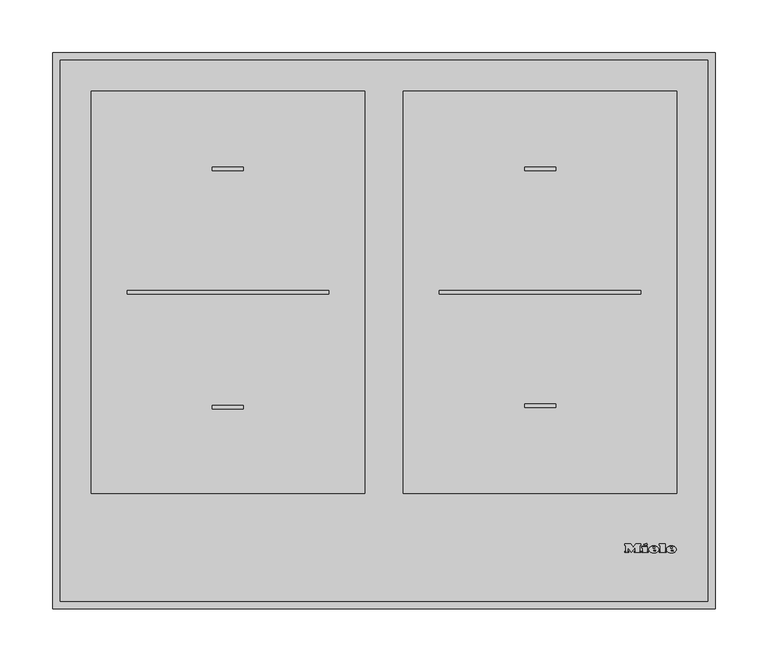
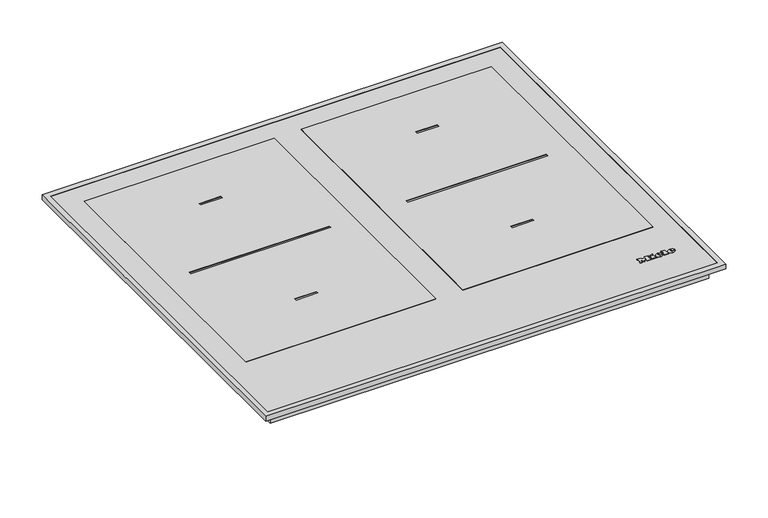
"""IFC4 building model written with IfcOpenShell, lengths in millimetres: proxy geometry, 11022950_D_KM7564FR : 26756400_D_11022950_KM7564FR."""

from ifc_helpers import new_model, si_unit, point, frame, frame_2d, origin, place, context, project, spatial, polyline, circle_curve, ellipse_curve, trimmed, segment, composite_curve, outline, extrude, faceted_brep, source, transform, mapped, element, save
from ifc_brep_helpers import plane_surface, cylinder_surface, revolved_surface, extruded_surface, advanced_brep


def specialty_equipment_dd4745b3(model_context):
    return source(origin(), model_context, "Body", "SolidModel", [
        advanced_brep(
        [(271.06, 55.1948833, 6.4802537), (271.06, 56.0028828, 6.4811551), (276.412, 56.0028828, 6.4811551), (267.1, 56.0028828, 6.4811551), (269.3, 53.2988845, 6.4781386), (276.276, 55.1948833, 6.4802537), (273.86, 55.1948833, 6.4802537), (271.956, 54.2988838, 6.4792542), (271.06, 57.0268821, 6.4822974), (271.06, 57.8988816, 6.4832701), (272.428, 57.8988816, 6.4832701), (272.428, 57.0268821, 6.4822974), (271.06, 55.1959988, 5.4802543), (271.956, 54.2999994, 5.4792548), (273.86, 55.1959988, 5.4802543), (276.276, 55.1959988, 5.4802543), (269.3, 53.3, 5.4781393), (267.1, 56.0039983, 5.4811557), (276.412, 56.0039983, 5.4811557), (271.06, 56.0039983, 5.4811557), (271.06, 57.0279977, 5.482298), (272.428, 57.0279977, 5.482298), (272.428, 57.8999971, 5.4832707), (271.06, 57.8999971, 5.4832707)],
        [
            (0, 1),
            (1, 2),
            (2, 3, ellipse_curve(frame((271.756, 56.0028828, 6.4811551), z_axis=(0.0, -0.0011155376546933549, 0.9999993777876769), x_axis=(-1.0, 0.0, 0.0)), 4.656, 3.848)),
            (3, 4, circle_curve(frame((270.1960436, 56.2748826, 6.4814585), z_axis=(0.0, -0.0011155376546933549, 0.9999993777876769), x_axis=(0.0, -0.9999993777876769, -0.0011155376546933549)), 3.1079688)),
            (4, 5, circle_curve(frame((271.6627936, 58.3868813, 6.4838145), z_axis=(0.0, -0.0011155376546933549, 0.9999993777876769), x_axis=(0.0, -0.9999993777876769, -0.0011155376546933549)), 5.6098607)),
            (5, 6),
            (6, 7, circle_curve(frame((272.3470588, 55.9388828, 6.4810837), z_axis=(0.0, 0.0011155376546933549, -0.9999993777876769), x_axis=(0.0, -0.9999993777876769, -0.0011155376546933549)), 1.6859795)),
            (7, 0, circle_curve(frame((271.956, 55.1948833, 6.4802537), z_axis=(0.0, 0.0011155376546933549, -0.9999993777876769), x_axis=(0.0, -0.9999993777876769, -0.0011155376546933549)), 0.896)),
            (8, 9),
            (9, 10, circle_curve(frame((271.744, 57.8988816, 6.4832701), z_axis=(0.0, 0.0011155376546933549, -0.9999993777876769), x_axis=(0.0, -0.9999993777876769, -0.0011155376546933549)), 0.684)),
            (10, 11),
            (11, 8),
            (12, 13, circle_curve(frame((271.956, 55.1959988, 5.4802543), z_axis=(0.0, -0.0011155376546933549, 0.9999993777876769), x_axis=(0.0, -0.9999993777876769, -0.0011155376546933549)), 0.896)),
            (13, 14, circle_curve(frame((272.3470588, 55.9399984, 5.4810843), z_axis=(0.0, -0.0011155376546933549, 0.9999993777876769), x_axis=(0.0, -0.9999993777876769, -0.0011155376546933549)), 1.6859795)),
            (14, 15),
            (15, 16, circle_curve(frame((271.6627936, 58.3879968, 5.4838151), z_axis=(0.0, 0.0011155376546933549, -0.9999993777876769), x_axis=(0.0, -0.9999993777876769, -0.0011155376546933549)), 5.6098607)),
            (16, 17, circle_curve(frame((270.1960436, 56.2759981, 5.4814591), z_axis=(0.0, 0.0011155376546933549, -0.9999993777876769), x_axis=(0.0, -0.9999993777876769, -0.0011155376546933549)), 3.1079688)),
            (17, 18, ellipse_curve(frame((271.756, 56.0039983, 5.4811557), z_axis=(0.0, 0.0011155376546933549, -0.9999993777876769), x_axis=(-1.0, 0.0, 0.0)), 4.656, 3.848)),
            (18, 19),
            (19, 12),
            (20, 21),
            (21, 22),
            (22, 23, circle_curve(frame((271.744, 57.8999971, 5.4832707), z_axis=(0.0, -0.0011155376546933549, 0.9999993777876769), x_axis=(0.0, -0.9999993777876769, -0.0011155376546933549)), 0.684)),
            (23, 20),
            (0, 12),
            (19, 1),
            (18, 2),
            (5, 15),
            (14, 6),
            (17, 3),
            (13, 7),
            (16, 4),
            (8, 20),
            (23, 9),
            (22, 10),
            (21, 11),
        ],
        [
            plane_surface(frame((271.06, 56.0028828, 6.4811551), z_axis=(0.0, -0.0011155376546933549, 0.9999993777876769), x_axis=(0.0, 0.9999993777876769, 0.0011155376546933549))),
            plane_surface(frame((271.06, 56.0039983, 5.4811557), z_axis=(0.0, 0.0011155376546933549, -0.9999993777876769), x_axis=(0.0, -0.9999993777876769, -0.0011155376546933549))),
            plane_surface(frame((271.06, 55.1948833, 6.4802537), z_axis=(1.0000000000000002, 0.0, 0.0), x_axis=(0.0, 0.001115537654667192, -0.999999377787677))),
            plane_surface(frame((271.06, 56.0028828, 6.4811551), z_axis=(0.0, -0.999999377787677, -0.001115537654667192), x_axis=(0.0, 0.001115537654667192, -0.999999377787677))),
            plane_surface(frame((276.276, 55.1948833, 6.4802537), z_axis=(0.0, 0.999999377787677, 0.001115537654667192), x_axis=(0.0, 0.001115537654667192, -0.999999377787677))),
            extruded_surface(trimmed(ellipse_curve(frame((271.756, 56.0051139, 4.4811563), z_axis=(0.0, -0.0011155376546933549, 0.9999993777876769), x_axis=(-1.0, 0.0, 0.0)), 4.656, 3.848), [point((276.412, 56.0051139, 4.4811563))], [point((267.1, 56.0051139, 4.4811563))], True, "CARTESIAN"), (0.0, -0.001115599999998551, 0.9999994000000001), 1.00000002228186),
            revolved_surface(polyline([(272.3470588, 54.25401994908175, 5.479203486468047), (272.3470588, 54.25290441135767, 6.4792029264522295)]), (272.3470588, 55.9399984, 5.4810843), (0.0, 0.0011155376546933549, -0.9999993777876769)),
            revolved_surface(polyline([(271.956, 54.29999935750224, 5.479254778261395), (271.956, 54.29888381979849, 6.479254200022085)]), (271.956, 55.1959988, 5.4802543), (0.0, 0.0011155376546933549, -0.9999993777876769)),
            cylinder_surface(frame((270.1960436, 56.2759981, 5.4814591), z_axis=(0.0, -0.0011155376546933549, 0.9999993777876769), x_axis=(0.0, -0.9999993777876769, -0.0011155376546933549)), 3.1079688),
            cylinder_surface(frame((271.6627936, 58.3879968, 5.4838151), z_axis=(0.0, -0.0011155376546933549, 0.9999993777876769), x_axis=(0.0, -0.9999993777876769, -0.0011155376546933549)), 5.6098607),
            plane_surface(frame((271.06, 57.0268821, 6.4822974), z_axis=(1.0000000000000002, 0.0, 0.0), x_axis=(0.0, 0.001115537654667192, -0.999999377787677))),
            revolved_surface(polyline([(271.744, 57.21599752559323, 5.48250767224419), (271.744, 57.214881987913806, 6.482507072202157)]), (271.744, 57.8999971, 5.4832707), (0.0, 0.0011155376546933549, -0.9999993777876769)),
            plane_surface(frame((272.428, 57.8988816, 6.4832701), z_axis=(-1.0000000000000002, 0.0, 0.0), x_axis=(0.0, 0.001115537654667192, -0.999999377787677))),
            plane_surface(frame((272.428, 57.0268821, 6.4822974), z_axis=(0.0, 0.999999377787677, 0.001115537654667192), x_axis=(0.0, 0.001115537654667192, -0.999999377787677))),
        ],
        [
            (0, [[1, 2, 3, 4, 5, 6, 7, 8], [9, 10, 11, 12]]),
            (1, [[13, 14, 15, 16, 17, 18, 19, 20], [21, 22, 23, 24]]),
            (2, [[-1, 25, -20, 26]]),
            (3, [[-2, -26, -19, 27]]),
            (4, [[-6, 28, -15, 29]]),
            (5, [[-3, -27, -18, 30]]),
            (6, [[-7, -29, -14, 31]]),
            (7, [[-8, -31, -13, -25]]),
            (8, [[-4, -30, -17, 32]]),
            (9, [[-5, -32, -16, -28]]),
            (10, [[-9, 33, -24, 34]]),
            (11, [[-10, -34, -23, 35]]),
            (12, [[-11, -35, -22, 36]]),
            (13, [[-12, -36, -21, -33]]),
        ],
    ),
        advanced_brep(
        [(254.364, 55.1948833, 6.4802537), (254.364, 56.0028828, 6.4811551), (259.716, 56.0028828, 6.4811551), (250.404, 56.0028828, 6.4811551), (252.604, 53.2988845, 6.4781386), (259.58, 55.1948833, 6.4802537), (257.164, 55.1948833, 6.4802537), (255.26, 54.2988838, 6.4792542), (254.364, 57.0268821, 6.4822974), (254.364, 57.8988816, 6.4832701), (255.732, 57.8988816, 6.4832701), (255.732, 57.0268821, 6.4822974), (254.364, 55.1959988, 5.4802543), (255.26, 54.2999994, 5.4792548), (257.164, 55.1959988, 5.4802543), (259.58, 55.1959988, 5.4802543), (252.604, 53.3, 5.4781393), (250.404, 56.0039983, 5.4811557), (259.716, 56.0039983, 5.4811557), (254.364, 56.0039983, 5.4811557), (254.364, 57.0279977, 5.482298), (255.732, 57.0279977, 5.482298), (255.732, 57.8999971, 5.4832707), (254.364, 57.8999971, 5.4832707)],
        [
            (0, 1),
            (1, 2),
            (2, 3, ellipse_curve(frame((255.06, 56.0028828, 6.4811551), z_axis=(0.0, -0.0011155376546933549, 0.9999993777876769), x_axis=(-1.0, 0.0, 0.0)), 4.656, 3.848)),
            (3, 4, circle_curve(frame((253.5000436, 56.2748826, 6.4814585), z_axis=(0.0, -0.0011155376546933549, 0.9999993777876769), x_axis=(0.0, -0.9999993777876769, -0.0011155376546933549)), 3.1079688)),
            (4, 5, circle_curve(frame((254.9667936, 58.3868813, 6.4838145), z_axis=(0.0, -0.0011155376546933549, 0.9999993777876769), x_axis=(0.0, -0.9999993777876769, -0.0011155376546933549)), 5.6098607)),
            (5, 6),
            (6, 7, circle_curve(frame((255.6510588, 55.9388828, 6.4810837), z_axis=(0.0, 0.0011155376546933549, -0.9999993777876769), x_axis=(0.0, -0.9999993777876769, -0.0011155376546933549)), 1.6859795)),
            (7, 0, circle_curve(frame((255.26, 55.1948833, 6.4802537), z_axis=(0.0, 0.0011155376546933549, -0.9999993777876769), x_axis=(0.0, -0.9999993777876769, -0.0011155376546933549)), 0.896)),
            (8, 9),
            (9, 10, circle_curve(frame((255.048, 57.8988816, 6.4832701), z_axis=(0.0, 0.0011155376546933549, -0.9999993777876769), x_axis=(0.0, -0.9999993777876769, -0.0011155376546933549)), 0.684)),
            (10, 11),
            (11, 8),
            (12, 13, circle_curve(frame((255.26, 55.1959988, 5.4802543), z_axis=(0.0, -0.0011155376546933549, 0.9999993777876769), x_axis=(0.0, -0.9999993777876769, -0.0011155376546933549)), 0.896)),
            (13, 14, circle_curve(frame((255.6510588, 55.9399984, 5.4810843), z_axis=(0.0, -0.0011155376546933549, 0.9999993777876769), x_axis=(0.0, -0.9999993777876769, -0.0011155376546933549)), 1.6859795)),
            (14, 15),
            (15, 16, circle_curve(frame((254.9667936, 58.3879968, 5.4838151), z_axis=(0.0, 0.0011155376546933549, -0.9999993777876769), x_axis=(0.0, -0.9999993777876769, -0.0011155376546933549)), 5.6098607)),
            (16, 17, circle_curve(frame((253.5000436, 56.2759981, 5.4814591), z_axis=(0.0, 0.0011155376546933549, -0.9999993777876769), x_axis=(0.0, -0.9999993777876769, -0.0011155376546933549)), 3.1079688)),
            (17, 18, ellipse_curve(frame((255.06, 56.0039983, 5.4811557), z_axis=(0.0, 0.0011155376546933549, -0.9999993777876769), x_axis=(-1.0, 0.0, 0.0)), 4.656, 3.848)),
            (18, 19),
            (19, 12),
            (20, 21),
            (21, 22),
            (22, 23, circle_curve(frame((255.048, 57.8999971, 5.4832707), z_axis=(0.0, -0.0011155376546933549, 0.9999993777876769), x_axis=(0.0, -0.9999993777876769, -0.0011155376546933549)), 0.684)),
            (23, 20),
            (0, 12),
            (19, 1),
            (18, 2),
            (5, 15),
            (14, 6),
            (17, 3),
            (13, 7),
            (16, 4),
            (8, 20),
            (23, 9),
            (22, 10),
            (21, 11),
        ],
        [
            plane_surface(frame((254.364, 56.0028828, 6.4811551), z_axis=(0.0, -0.0011155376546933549, 0.9999993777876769), x_axis=(0.0, 0.9999993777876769, 0.0011155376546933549))),
            plane_surface(frame((254.364, 56.0039983, 5.4811557), z_axis=(0.0, 0.0011155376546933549, -0.9999993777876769), x_axis=(0.0, -0.9999993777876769, -0.0011155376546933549))),
            plane_surface(frame((254.364, 55.1948833, 6.4802537), z_axis=(1.0000000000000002, 0.0, 0.0), x_axis=(0.0, 0.001115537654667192, -0.999999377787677))),
            plane_surface(frame((254.364, 56.0028828, 6.4811551), z_axis=(0.0, -0.999999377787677, -0.001115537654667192), x_axis=(0.0, 0.001115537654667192, -0.999999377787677))),
            plane_surface(frame((259.58, 55.1948833, 6.4802537), z_axis=(0.0, 0.999999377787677, 0.001115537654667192), x_axis=(0.0, 0.001115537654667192, -0.999999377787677))),
            extruded_surface(trimmed(ellipse_curve(frame((255.06, 56.0051139, 4.4811563), z_axis=(0.0, -0.0011155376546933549, 0.9999993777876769), x_axis=(-1.0, 0.0, 0.0)), 4.656, 3.848), [point((259.716, 56.0051139, 4.4811563))], [point((250.404, 56.0051139, 4.4811563))], True, "CARTESIAN"), (0.0, -0.001115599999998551, 0.9999994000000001), 1.00000002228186),
            revolved_surface(polyline([(255.6510588, 54.25401994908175, 5.479203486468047), (255.6510588, 54.25290441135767, 6.4792029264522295)]), (255.6510588, 55.9399984, 5.4810843), (0.0, 0.0011155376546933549, -0.9999993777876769)),
            revolved_surface(polyline([(255.26, 54.29999935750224, 5.479254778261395), (255.26, 54.29888381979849, 6.479254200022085)]), (255.26, 55.1959988, 5.4802543), (0.0, 0.0011155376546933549, -0.9999993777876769)),
            cylinder_surface(frame((253.5000436, 56.2759981, 5.4814591), z_axis=(0.0, -0.0011155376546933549, 0.9999993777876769), x_axis=(0.0, -0.9999993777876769, -0.0011155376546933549)), 3.1079688),
            cylinder_surface(frame((254.9667936, 58.3879968, 5.4838151), z_axis=(0.0, -0.0011155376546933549, 0.9999993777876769), x_axis=(0.0, -0.9999993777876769, -0.0011155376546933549)), 5.6098607),
            plane_surface(frame((254.364, 57.0268821, 6.4822974), z_axis=(1.0000000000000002, 0.0, 0.0), x_axis=(0.0, 0.001115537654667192, -0.999999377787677))),
            revolved_surface(polyline([(255.048, 57.21599752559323, 5.48250767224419), (255.048, 57.214881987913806, 6.482507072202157)]), (255.048, 57.8999971, 5.4832707), (0.0, 0.0011155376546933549, -0.9999993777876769)),
            plane_surface(frame((255.732, 57.8988816, 6.4832701), z_axis=(-1.0000000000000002, 0.0, 0.0), x_axis=(0.0, 0.001115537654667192, -0.999999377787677))),
            plane_surface(frame((255.732, 57.0268821, 6.4822974), z_axis=(0.0, 0.999999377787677, 0.001115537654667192), x_axis=(0.0, 0.001115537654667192, -0.999999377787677))),
        ],
        [
            (0, [[1, 2, 3, 4, 5, 6, 7, 8], [9, 10, 11, 12]]),
            (1, [[13, 14, 15, 16, 17, 18, 19, 20], [21, 22, 23, 24]]),
            (2, [[-1, 25, -20, 26]]),
            (3, [[-2, -26, -19, 27]]),
            (4, [[-6, 28, -15, 29]]),
            (5, [[-3, -27, -18, 30]]),
            (6, [[-7, -29, -14, 31]]),
            (7, [[-8, -31, -13, -25]]),
            (8, [[-4, -30, -17, 32]]),
            (9, [[-5, -32, -16, -28]]),
            (10, [[-9, 33, -24, 34]]),
            (11, [[-10, -34, -23, 35]]),
            (12, [[-11, -35, -22, 36]]),
            (13, [[-12, -36, -21, -33]]),
        ],
    ),
        extrude(outline(polyline([(0.0, 0.0), (-0.0109086, -2.9993294), (-1.4390415, -2.9920868), (-1.4315307, 0.0), (0.0, 0.0)])), frame((245.62, 60.8279953, 5.486537), z_axis=(0.0, -0.001115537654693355, 0.999999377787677), x_axis=(-0.4247202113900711, 0.9053240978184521, 0.0010099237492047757)), (0.0, 0.0, 1.0), 1.0),
        extrude(outline(polyline([(-0.4933908, 2.4141097), (-2.7800844, -2.4601583), (-7.0459741, -0.4588767), (-7.4401145, -1.299018), (-8.6568709, -0.728194), (-5.9760369, 4.9862153), (-4.7592805, 4.4153913), (-5.1636142, 3.5535222), (-2.1941493, 2.1604399), (-1.7898157, 3.022309), (-0.4933908, 2.4141097)])), frame((245.62, 60.8279953, 5.486537), z_axis=(0.0, -0.001115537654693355, 0.999999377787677), x_axis=(-0.4247202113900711, 0.9053240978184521, 0.0010099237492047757)), (0.0, 0.0, 1.0), 1.0),
        extrude(outline(polyline([(0.0, 0.0), (0.0, -1.304), (-5.504, -1.304), (-5.504, 5.3519999), (-6.488, 5.3519999), (-6.488, 6.696), (0.0, 6.696), (0.0, 5.3519999), (-0.96, 5.3519999), (-0.96, 0.0), (0.0, 0.0)])), frame((260.164, 59.9959958, 5.4856089), z_axis=(0.0, -0.0011155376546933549, 0.9999993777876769), x_axis=(-1.0, 0.0, 0.0)), (0.0, 0.0, 1.0), 1.0),
        extrude(outline(polyline([(0.0, 0.0), (0.0, -1.304), (-5.576, -1.304), (-7.92, 1.696), (-10.256, -1.304), (-15.128, -1.304), (-15.128, 0.0), (-14.112, 0.0), (-14.112, 5.3519999), (-15.128, 5.3519999), (-15.128, 6.696), (-8.744, 6.696), (-8.744, 5.3519999), (-9.728, 5.3519999), (-9.728, 1.8807777), (-6.136, 6.696), (-2.56, 1.9488752), (-2.56, 5.3519999), (-3.52, 5.3519999), (-3.52, 6.696), (0.0, 6.696), (0.0, 5.3519999), (-0.968, 5.3519999), (-0.968, 0.0), (0.0, 0.0)])), frame((227.7, 59.9959958, 5.4856089), z_axis=(0.0, -0.0011155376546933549, 0.9999993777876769), x_axis=(-1.0, 0.0, 0.0)), (0.0, 0.0, 1.0), 1.0),
        extrude(outline(polyline([(310.0, 520.0), (310.0, 1.0), (-310.0, 1.0), (-310.0, 520.0), (310.0, 520.0)])), frame((0.0, 0.0, 2.0), z_axis=(0.0, 0.0, 1.0), x_axis=(1.0, 0.0, 0.0)), (0.0, 0.0, 1.0), 4.0),
        extrude(outline(polyline([(298.5, 511.5), (298.5, 14.5), (-298.5, 14.5), (-298.5, 511.5), (298.5, 511.5)])), frame((0.0, 0.0, -16.8), z_axis=(0.0, 0.0, 1.0), x_axis=(1.0, 0.0, 0.0)), (0.0, 0.0, 1.0), 18.8),
        extrude(outline(polyline([(-202.8, 321.7), (-224.2, 321.7), (-224.2, 405.1), (-202.8, 405.1), (-202.8, 455.3), (203.2, 455.3), (203.2, 84.3), (-202.8, 84.3), (-202.8, 321.7)])), frame((0.0, 0.0, -46.5), z_axis=(0.0, 0.0, 1.0), x_axis=(1.0, 0.0, 0.0)), (0.0, 0.0, 1.0), 29.7),
        faceted_brep([(306.0, 519.0, 7.0), (306.0, 519.0, 6.0), (306.0, 7.0, 6.0), (306.0, 7.0, 7.0), (313.0, 526.0, 0.0), (313.0, 526.0, 7.0), (313.0, 0.0, 7.0), (313.0, 0.0, 0.0), (312.0, 525.0, 6.0), (312.0, 525.0, 0.0), (312.0, 1.0, 0.0), (312.0, 1.0, 6.0), (-306.0, 7.0, 6.0), (-306.0, 7.0, 7.0), (-313.0, 0.0, 7.0), (-313.0, 0.0, 0.0), (-312.0, 1.0, 0.0), (-312.0, 1.0, 6.0), (-306.0, 519.0, 6.0), (-306.0, 519.0, 7.0), (-313.0, 526.0, 7.0), (-313.0, 526.0, 0.0), (-312.0, 525.0, 0.0), (-312.0, 525.0, 6.0)], [[[0, 1, 2, 3]], [[4, 5, 6, 7]], [[8, 9, 10, 11]], [[3, 2, 12, 13]], [[7, 6, 14, 15]], [[11, 10, 16, 17]], [[13, 12, 18, 19]], [[15, 14, 20, 21]], [[17, 16, 22, 23]], [[19, 18, 1, 0]], [[5, 20, 14, 6], [3, 13, 19, 0]], [[21, 20, 5, 4]], [[7, 15, 21, 4], [9, 22, 16, 10]], [[23, 22, 9, 8]], [[11, 17, 23, 8], [1, 18, 12, 2]]]),
        extrude(outline(polyline([(141.2772603, 418.5), (133.9, 418.5), (133.9, 419.7557039), (140.0215564, 419.7557039), (140.0215564, 423.0519266), (134.370889, 423.0519266), (134.370889, 424.3076304), (140.0215564, 424.3076304), (140.0215564, 427.2899271), (134.056963, 427.2899271), (134.056963, 428.545631), (141.2772603, 428.545631), (141.2772603, 418.5)])), frame((0.0, 0.0, -77.5), z_axis=(0.0, 0.0, 1.0), x_axis=(1.0, 0.0, 0.0)), (0.0, 0.0, 1.0), 1.0),
        extrude(outline(polyline([(132.0164442, 418.5), (125.7379248, 418.5), (125.7379248, 419.7557039), (130.7607403, 419.7557039), (130.7607403, 428.545631), (132.0164442, 428.545631), (132.0164442, 418.5)])), frame((0.0, 0.0, -77.5), z_axis=(0.0, 0.0, 1.0), x_axis=(1.0, 0.0, 0.0)), (0.0, 0.0, 1.0), 1.0),
        extrude(outline(composite_curve([segment(trimmed(circle_curve(frame_2d((133.9, 423.5)), 7.5), [point((133.9, 431.0))], [point((133.9, 416.0))], False, "CARTESIAN"), True, "CONTINUOUS"), segment(trimmed(circle_curve(frame_2d((133.9, 423.5)), 7.5), [point((133.9, 416.0))], [point((133.9, 431.0))], False, "CARTESIAN"), True, "CONTINUOUS")], self_intersect=False)), frame((0.0, 0.0, -76.5), z_axis=(0.0, 0.0, 1.0), x_axis=(1.0, 0.0, 0.0)), (0.0, 0.0, 1.0), 30.0),
        extrude(outline(polyline([(276.75, 489.75), (276.75, 109.25), (18.25, 109.25), (18.25, 489.75), (276.75, 489.75)]), holes=[polyline([(52.2, 301.1), (52.2, 297.9), (242.8, 297.9), (242.8, 301.1), (52.2, 301.1)]), polyline([(162.15, 417.85), (132.85, 417.85), (132.85, 414.65), (162.15, 414.65), (162.15, 417.85)]), polyline([(162.15, 193.95), (132.85, 193.95), (132.85, 190.75), (162.15, 190.75), (162.15, 193.95)])]), frame((0.0, 0.0, 6.0), z_axis=(0.0, 0.0, 1.0), x_axis=(1.0, 0.0, 0.0)), (0.0, 0.0, 1.0), 1.0),
        extrude(outline(polyline([(-18.25, 489.75), (-18.25, 109.25), (-276.75, 109.25), (-276.75, 489.75), (-18.25, 489.75)]), holes=[polyline([(-52.2, 301.1), (-242.8, 301.1), (-242.8, 297.9), (-52.2, 297.9), (-52.2, 301.1)]), polyline([(-132.85, 417.85), (-162.15, 417.85), (-162.15, 414.65), (-132.85, 414.65), (-132.85, 417.85)]), polyline([(-132.85, 192.35), (-162.15, 192.35), (-162.15, 189.15), (-132.85, 189.15), (-132.85, 192.35)])]), frame((0.0, 0.0, 6.0), z_axis=(0.0, 0.0, 1.0), x_axis=(1.0, 0.0, 0.0)), (0.0, 0.0, 1.0), 1.0),
        extrude(outline(composite_curve([segment(trimmed(circle_curve(frame_2d((-291.0, 83.0)), 3.0), [point((-291.0, 86.0))], [point((-291.0, 80.0))], False, "CARTESIAN"), True, "CONTINUOUS"), segment(trimmed(circle_curve(frame_2d((-291.0, 83.0)), 3.0), [point((-291.0, 80.0))], [point((-291.0, 86.0))], False, "CARTESIAN"), True, "CONTINUOUS")], self_intersect=False)), frame((0.0, 0.0, -22.0), z_axis=(0.0, 0.0, 1.0), x_axis=(1.0, 0.0, 0.0)), (0.0, 0.0, 1.0), 5.2),
        extrude(outline(composite_curve([segment(trimmed(circle_curve(frame_2d((291.0, 443.0)), 3.0), [point((291.0, 446.0))], [point((291.0, 440.0))], False, "CARTESIAN"), True, "CONTINUOUS"), segment(trimmed(circle_curve(frame_2d((291.0, 443.0)), 3.0), [point((291.0, 440.0))], [point((291.0, 446.0))], False, "CARTESIAN"), True, "CONTINUOUS")], self_intersect=False)), frame((0.0, 0.0, -22.0), z_axis=(0.0, 0.0, 1.0), x_axis=(1.0, 0.0, 0.0)), (0.0, 0.0, 1.0), 5.2),
    ])


if __name__ == "__main__":
    model = new_model("IFC4")
    model_context = context("Model", 3, world=origin())
    ifc_project = project(units=[si_unit("LENGTHUNIT", "METRE", prefix="MILLI")], contexts=[model_context])
    site = spatial("IfcSite", under=ifc_project)
    building = spatial("IfcBuilding", under=site)
    placement = place(None, origin())
    specialty_equipment_shape = specialty_equipment_dd4745b3(model_context)
    element("IfcBuildingElementProxy", 1, Name="11022950_D_KM7564FR : 26756400_D_11022950_KM7564FR", ObjectType="11022950_D_KM7564FR : 26756400_D_11022950_KM7564FR", at=placement, inside=building, context=model_context, shape_type="MappedRepresentation", body=[
        mapped(specialty_equipment_shape, transform((0.0, 0.0, 0.0), x_axis=(1.0, 0.0, 0.0), y_axis=(0.0, 1.0, 0.0), z_axis=(0.0, 0.0, 1.0))),
    ])
    save(model, "model.ifc")
